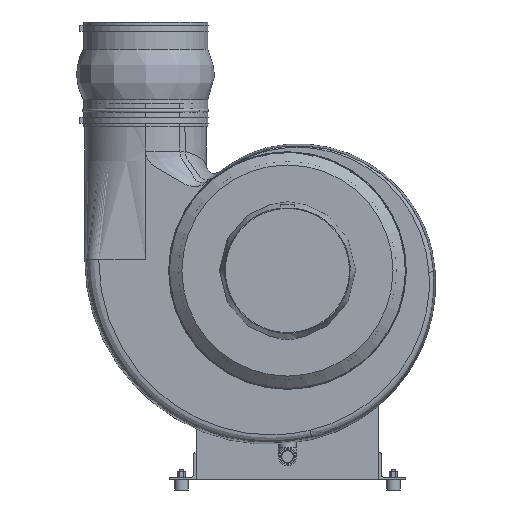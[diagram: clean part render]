
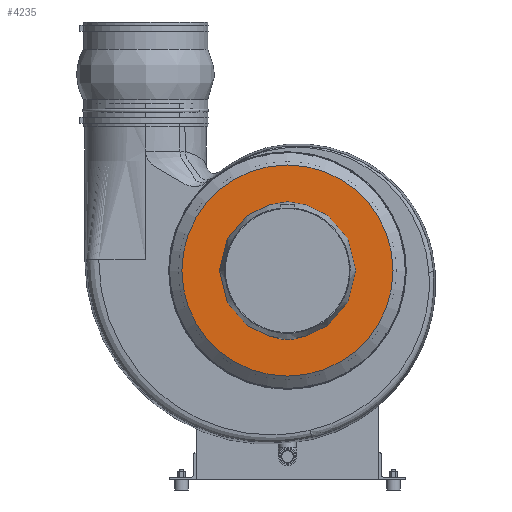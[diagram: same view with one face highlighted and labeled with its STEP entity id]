
A CAD part, front view. The second image highlights one B-rep face of the part: STEP entity #4235.
In plain terms, the highlighted planar face has unit normal (0, -1, 0) as drawn and (-1, 0, 0) by its records, which use the part's own axes.
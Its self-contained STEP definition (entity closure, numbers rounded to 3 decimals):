
#4235 = ADVANCED_FACE( '', ( #9352, #9353 ), #9354, .T. );
#9352 = FACE_BOUND( '', #36194, .T. );
#9353 = FACE_OUTER_BOUND( '', #36195, .T. );
#9354 = PLANE( '', #36196 );
#36194 = EDGE_LOOP( '', ( #68338 ) );
#36195 = EDGE_LOOP( '', ( #68339 ) );
#36196 = AXIS2_PLACEMENT_3D( '', #68340, #68341, #68342 );
#68338 = ORIENTED_EDGE( '', *, *, #82583, .F. );
#68339 = ORIENTED_EDGE( '', *, *, #83882, .T. );
#68340 = CARTESIAN_POINT( '', ( 40., 0., 0. ) );
#68341 = DIRECTION( '', ( -1., 0., 0. ) );
#68342 = DIRECTION( '', ( 0., 0., 1. ) );
#82583 = EDGE_CURVE( '', #89666, #89666, #89667, .T. );
#83882 = EDGE_CURVE( '', #91586, #91586, #91587, .T. );
#89666 = VERTEX_POINT( '', #107077 );
#89667 = CIRCLE( '', #107078, 90. );
#91586 = VERTEX_POINT( '', #115117 );
#91587 = CIRCLE( '', #115118, 156.338 );
#107077 = CARTESIAN_POINT( '', ( 40., 0., 90. ) );
#107078 = AXIS2_PLACEMENT_3D( '', #126953, #126954, #126955 );
#115117 = CARTESIAN_POINT( '', ( 40., 0., 156.338 ) );
#115118 = AXIS2_PLACEMENT_3D( '', #128213, #128214, #128215 );
#126953 = CARTESIAN_POINT( '', ( 40., 0., 0. ) );
#126954 = DIRECTION( '', ( -1., 0., 0. ) );
#126955 = DIRECTION( '', ( 0., 0., 1. ) );
#128213 = CARTESIAN_POINT( '', ( 40., 0., 0. ) );
#128214 = DIRECTION( '', ( -1., 0., 0. ) );
#128215 = DIRECTION( '', ( 0., 0., 1. ) );
